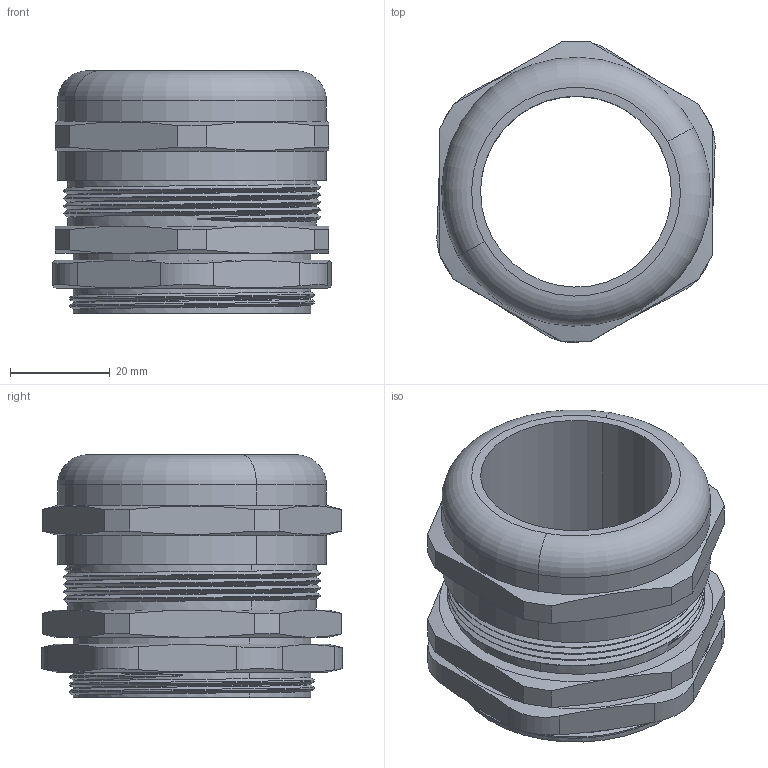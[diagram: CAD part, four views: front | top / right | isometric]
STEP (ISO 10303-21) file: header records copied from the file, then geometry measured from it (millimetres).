
FILE_DESCRIPTION(('CATIA V5 STEP Exchange'),'2;1');
FILE_NAME('C:\Users\Administrator\Desktop\M50-1.5tong.stp','2023-07-10T07:37:43+00:00',('none'),('none'),'CATIA Version 5 Release 21 GA (IN-10)','CATIA V5 STEP AP203','none');
FILE_SCHEMA(('CONFIG_CONTROL_DESIGN'));
Length unit declared in the file: millimetre
Products named in the file (1): Part5
Bounding box: 55.65 x 60.23 x 48.5 mm (x, y, z)
Volume: 47448.8 mm3; surface area: 20146.4 mm2
Topology: 1 solids, 1 shells, 101 faces, 274 edges, 189 vertices
Faces by surface type: plane 39, cylinder 34, cone 20, bspline 6, torus 2
Entity records: 5457 total; most frequent: CARTESIAN_POINT 3282, ORIENTED_EDGE 548, EDGE_CURVE 274, DIRECTION 259, VERTEX_POINT 182, B_SPLINE_CURVE_WITH_KNOTS 131, AXIS2_PLACEMENT_3D 115, EDGE_LOOP 110
